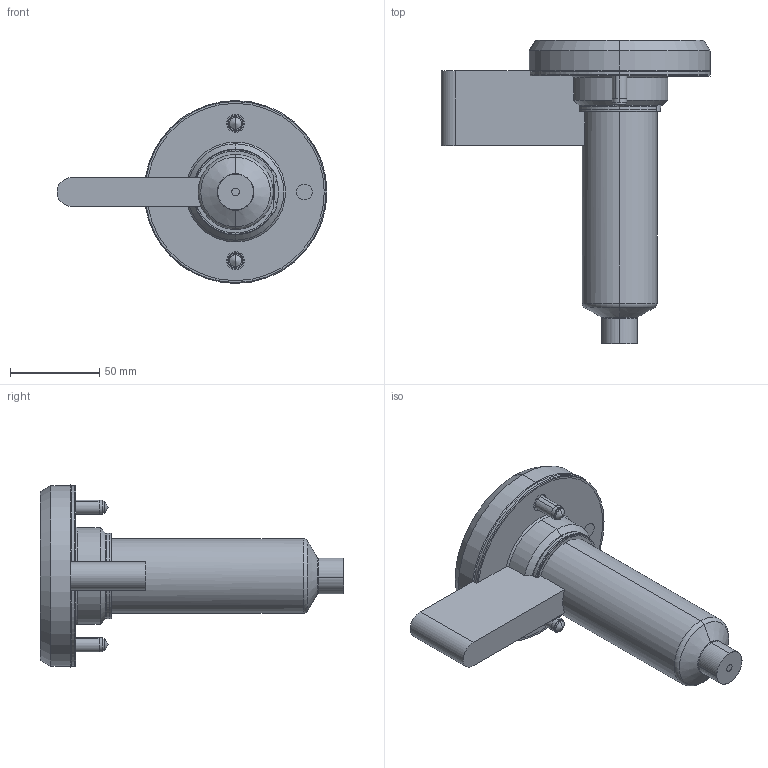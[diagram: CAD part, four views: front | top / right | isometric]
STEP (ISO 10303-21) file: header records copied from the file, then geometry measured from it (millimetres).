
FILE_DESCRIPTION (( 'STEP AP214' ), '1' );
FILE_NAME ('SOHSB16120-SOFBOP16EX.STEP', '2024-11-28T08:55:02', ( '' ), ( '' ), 'SwSTEP 2.0', 'SolidWorks 2022', '' );
FILE_SCHEMA (( 'AUTOMOTIVE_DESIGN' ));
Length unit declared in the file: millimetre
Products named in the file (11): EcoONE-HSB16-Open Gate Extended Full Body Standad Tip Assembly_SOFBOP16EX; SOHSB16120-SOFBOP16EX; EcoONE-HSB16-Point Gate Needle Tip-Standard_SOPGN1601; EcoONE-HSB16-16005_SOTC10350-J; EcoONE-HSB16-Open Gate Extended Full Body Retainer Tip_SOFRT1602; EcoONE-HSB16-16003(A)_SOHSBNB16120; EcoONE-HSB16-16004_SONH28112; EcoONE-HSB16-Open Gate Cut-out Details_Ext Sprue Gate or Full Body Gate; EcoONE-HSB16-16006_SONHC16; EcoONE-HSB16-00002(A)_SOHSBLR16; socket head cap screw_iso_ISO 4762 M8 x 25 - 25N
Assembly tree (12 placements, depth 3):
  SOHSB16120-SOFBOP16EX
    EcoONE-HSB16-16003(A)_SOHSBNB16120
    EcoONE-HSB16-16004_SONH28112
    EcoONE-HSB16-16005_SOTC10350-J
    EcoONE-HSB16-16006_SONHC16  x2
    EcoONE-HSB16-00002(A)_SOHSBLR16
    socket head cap screw_iso_ISO 4762 M8 x 25 - 25N  x2
    EcoONE-HSB16-Open Gate Extended Full Body Standad Tip Assembly_SOFBOP16EX
      EcoONE-HSB16-Open Gate Extended Full Body Retainer Tip_SOFRT1602
      EcoONE-HSB16-Point Gate Needle Tip-Standard_SOPGN1601
    EcoONE-HSB16-Open Gate Cut-out Details_Ext Sprue Gate or Full Body Gate
Bounding box: 151.2 x 170 x 102.4 mm (x, y, z)
Volume: 514601.4 mm3; surface area: 128553.1 mm2
Topology: 11 solids, 11 shells, 512 faces, 1280 edges, 802 vertices
Faces by surface type: cylinder 156, plane 139, bspline 98, cone 85, torus 26, sphere 8
Entity records: 28551 total; most frequent: CARTESIAN_POINT 17134, ORIENTED_EDGE 2336, DIRECTION 1990, EDGE_CURVE 1168, AXIS2_PLACEMENT_3D 802, VERTEX_POINT 739, EDGE_LOOP 507, ADVANCED_FACE 469
